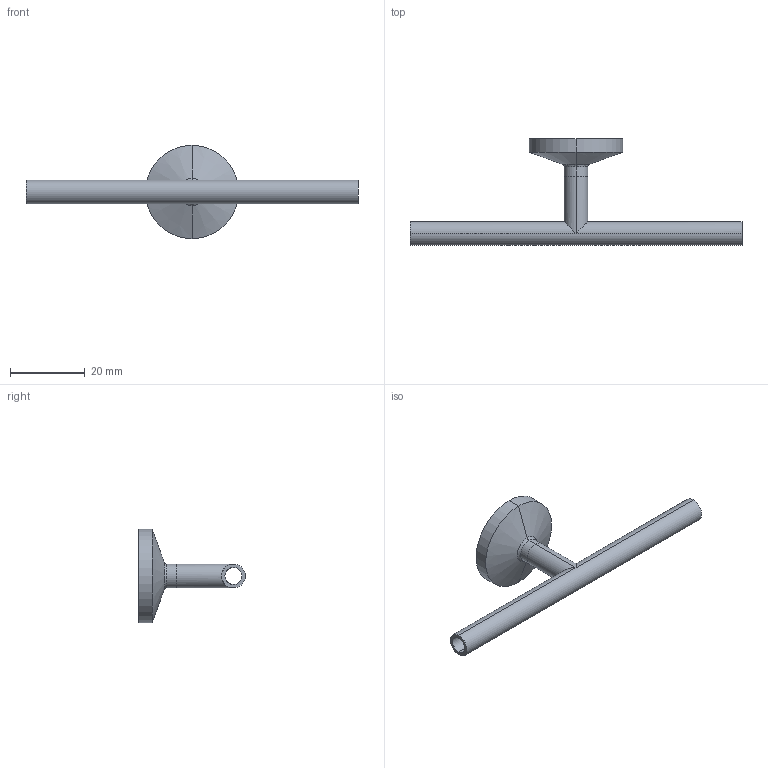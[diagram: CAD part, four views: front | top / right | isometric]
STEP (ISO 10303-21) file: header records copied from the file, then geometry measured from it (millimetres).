
FILE_DESCRIPTION (( 'STEP AP214' ), '1' );
FILE_NAME ('TE7WWCS6L.25-...STEP', '2016-05-24T11:59:49', ( 'eran' ), ( '' ), 'SwSTEP 2.0', 'SolidWorks 2016', '' );
FILE_SCHEMA (( 'AUTOMOTIVE_DESIGN' ));
Length unit declared in the file: millimetre
Products named in the file (1): TE7WWCS6L.25-..
Bounding box: 89 x 28.57 x 24.99 mm (x, y, z)
Volume: 3574.9 mm3; surface area: 5104 mm2
Topology: 2 solids, 2 shells, 36 faces, 74 edges, 42 vertices
Faces by surface type: cylinder 18, bspline 8, plane 6, cone 4
Entity records: 1087 total; most frequent: CARTESIAN_POINT 297, DIRECTION 166, ORIENTED_EDGE 148, EDGE_CURVE 74, AXIS2_PLACEMENT_3D 71, EDGE_LOOP 42, CIRCLE 42, VERTEX_POINT 42
